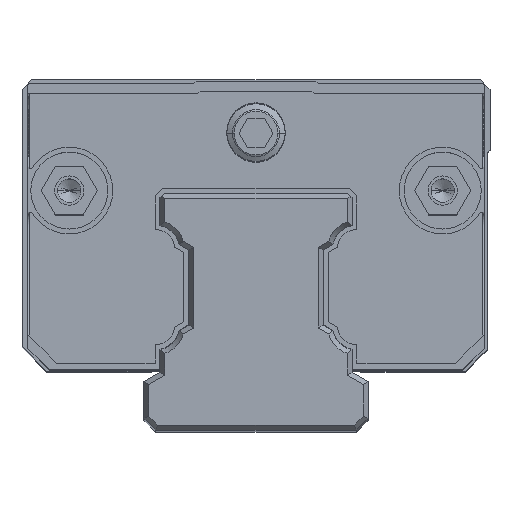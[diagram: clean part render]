
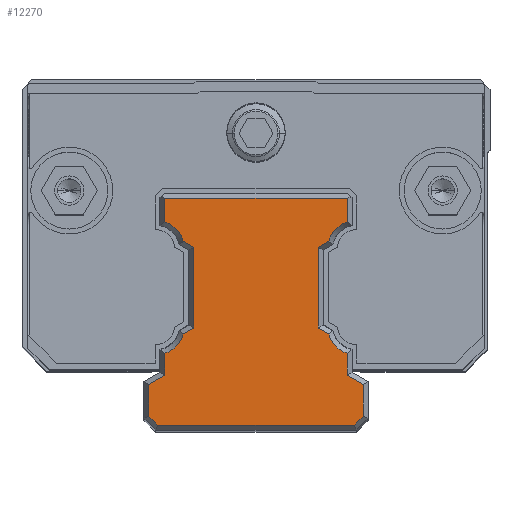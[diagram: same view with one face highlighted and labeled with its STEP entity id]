
A CAD part, top view. The second image highlights one B-rep face of the part: STEP entity #12270.
In plain terms, the highlighted planar face has unit normal (0, 0, 1).
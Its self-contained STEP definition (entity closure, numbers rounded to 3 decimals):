
#11584=DIRECTION('',(-1.,0.,0.));
#11585=VECTOR('',#11584,18.7);
#11586=CARTESIAN_POINT('',(9.35,9.15,68.1));
#11587=LINE('',#11586,#11585);
#11588=DIRECTION('',(0.,1.,0.));
#11589=VECTOR('',#11588,2.407);
#11590=CARTESIAN_POINT('',(9.35,6.743,68.1));
#11591=LINE('',#11590,#11589);
#11592=DIRECTION('',(0.866,0.5,0.));
#11593=VECTOR('',#11592,1.225);
#11594=CARTESIAN_POINT('',(6.4,4.139,68.1));
#11595=LINE('',#11594,#11593);
#11596=DIRECTION('',(0.,1.,0.));
#11597=VECTOR('',#11596,8.277);
#11598=CARTESIAN_POINT('',(6.4,-4.139,68.1));
#11599=LINE('',#11598,#11597);
#11600=DIRECTION('',(-0.866,0.5,0.));
#11601=VECTOR('',#11600,1.225);
#11602=CARTESIAN_POINT('',(7.461,-4.751,
68.1));
#11603=LINE('',#11602,#11601);
#11604=DIRECTION('',(0.,1.,0.));
#11605=VECTOR('',#11604,2.246);
#11606=CARTESIAN_POINT('',(9.35,-8.989,68.1));
#11607=LINE('',#11606,#11605);
#11608=DIRECTION('',(-0.866,0.5,0.));
#11609=VECTOR('',#11608,1.905);
#11610=CARTESIAN_POINT('',(11.,-9.941,68.1));
#11611=LINE('',#11610,#11609);
#11612=DIRECTION('',(0.,1.,0.));
#11613=VECTOR('',#11612,3.252);
#11614=CARTESIAN_POINT('',(11.,-13.193,68.1));
#11615=LINE('',#11614,#11613);
#11616=DIRECTION('',(0.707,0.707,0.));
#11617=VECTOR('',#11616,1.283);
#11618=CARTESIAN_POINT('',(10.093,-14.1,68.1));
#11619=LINE('',#11618,#11617);
#11620=DIRECTION('',(1.,0.,0.));
#11621=VECTOR('',#11620,20.186);
#11622=CARTESIAN_POINT('',(-10.093,-14.1,68.1));
#11623=LINE('',#11622,#11621);
#11624=DIRECTION('',(0.707,-0.707,0.));
#11625=VECTOR('',#11624,1.283);
#11626=CARTESIAN_POINT('',(-11.,-13.193,68.1));
#11627=LINE('',#11626,#11625);
#11628=DIRECTION('',(0.,-1.,0.));
#11629=VECTOR('',#11628,3.252);
#11630=CARTESIAN_POINT('',(-11.,-9.941,68.1));
#11631=LINE('',#11630,#11629);
#11632=DIRECTION('',(-0.866,-0.5,0.));
#11633=VECTOR('',#11632,1.905);
#11634=CARTESIAN_POINT('',(-9.35,-8.989,68.1));
#11635=LINE('',#11634,#11633);
#11636=DIRECTION('',(0.,-1.,0.));
#11637=VECTOR('',#11636,2.246);
#11638=CARTESIAN_POINT('',(-9.35,-6.743,
68.1));
#11639=LINE('',#11638,#11637);
#11640=DIRECTION('',(-0.866,-0.5,0.));
#11641=VECTOR('',#11640,1.225);
#11642=CARTESIAN_POINT('',(-6.4,-4.139,68.1));
#11643=LINE('',#11642,#11641);
#11644=DIRECTION('',(0.,-1.,0.));
#11645=VECTOR('',#11644,8.277);
#11646=CARTESIAN_POINT('',(-6.4,4.139,68.1));
#11647=LINE('',#11646,#11645);
#11648=DIRECTION('',(0.866,-0.5,0.));
#11649=VECTOR('',#11648,1.225);
#11650=CARTESIAN_POINT('',(-7.461,4.751,
68.1));
#11651=LINE('',#11650,#11649);
#11652=DIRECTION('',(0.,-1.,0.));
#11653=VECTOR('',#11652,2.407);
#11654=CARTESIAN_POINT('',(-9.35,9.15,68.1));
#11655=LINE('',#11654,#11653);
#11683=CARTESIAN_POINT('',(-10.3,3.95,68.1));
#11684=DIRECTION('',(0.,0.,-1.));
#11685=DIRECTION('',(0.322,0.947,0.));
#11686=AXIS2_PLACEMENT_3D('',#11683,#11684,#11685);
#11743=CARTESIAN_POINT('',(-10.3,-3.95,68.1));
#11744=DIRECTION('',(0.,0.,-1.));
#11745=DIRECTION('',(0.962,-0.272,0.));
#11746=AXIS2_PLACEMENT_3D('',#11743,#11744,#11745);
#11875=CARTESIAN_POINT('',(10.3,-3.95,68.1));
#11876=DIRECTION('',(0.,0.,-1.));
#11877=DIRECTION('',(-0.322,-0.947,0.));
#11878=AXIS2_PLACEMENT_3D('',#11875,#11876,#11877);
#11940=CARTESIAN_POINT('',(10.3,3.95,68.1));
#11941=DIRECTION('',(0.,0.,-1.));
#11942=DIRECTION('',(-0.962,0.272,0.));
#11943=AXIS2_PLACEMENT_3D('',#11940,#11941,#11942);
#12032=CARTESIAN_POINT('',(9.35,9.15,68.1));
#12033=CARTESIAN_POINT('',(-9.35,9.15,68.1));
#12034=VERTEX_POINT('',#12032);
#12035=VERTEX_POINT('',#12033);
#12040=CARTESIAN_POINT('',(9.35,6.743,68.1));
#12041=VERTEX_POINT('',#12040);
#12046=CARTESIAN_POINT('',(6.4,4.139,68.1));
#12047=CARTESIAN_POINT('',(7.461,4.751,68.1));
#12048=VERTEX_POINT('',#12046);
#12049=VERTEX_POINT('',#12047);
#12052=CARTESIAN_POINT('',(6.4,-4.139,68.1));
#12053=VERTEX_POINT('',#12052);
#12054=CARTESIAN_POINT('',(7.461,-4.751,
68.1));
#12055=VERTEX_POINT('',#12054);
#12062=CARTESIAN_POINT('',(9.35,-8.989,68.1));
#12063=CARTESIAN_POINT('',(9.35,-6.743,
68.1));
#12064=VERTEX_POINT('',#12062);
#12065=VERTEX_POINT('',#12063);
#12068=CARTESIAN_POINT('',(11.,-9.941,68.1));
#12069=VERTEX_POINT('',#12068);
#12072=CARTESIAN_POINT('',(11.,-13.193,68.1));
#12073=VERTEX_POINT('',#12072);
#12076=CARTESIAN_POINT('',(10.093,-14.1,68.1));
#12077=VERTEX_POINT('',#12076);
#12080=CARTESIAN_POINT('',(-10.093,-14.1,68.1));
#12081=VERTEX_POINT('',#12080);
#12084=CARTESIAN_POINT('',(-11.,-13.193,68.1));
#12085=VERTEX_POINT('',#12084);
#12088=CARTESIAN_POINT('',(-11.,-9.941,68.1));
#12089=VERTEX_POINT('',#12088);
#12092=CARTESIAN_POINT('',(-9.35,-8.989,68.1));
#12093=VERTEX_POINT('',#12092);
#12096=CARTESIAN_POINT('',(-9.35,-6.743,
68.1));
#12097=VERTEX_POINT('',#12096);
#12102=CARTESIAN_POINT('',(-6.4,-4.139,68.1));
#12103=CARTESIAN_POINT('',(-7.461,-4.751,
68.1));
#12104=VERTEX_POINT('',#12102);
#12105=VERTEX_POINT('',#12103);
#12108=CARTESIAN_POINT('',(-6.4,4.139,68.1));
#12109=VERTEX_POINT('',#12108);
#12112=CARTESIAN_POINT('',(-7.461,4.751,
68.1));
#12113=VERTEX_POINT('',#12112);
#12116=CARTESIAN_POINT('',(-9.35,6.743,
68.1));
#12117=VERTEX_POINT('',#12116);
#12221=CARTESIAN_POINT('',(0.,0.,68.1));
#12222=DIRECTION('',(0.,0.,1.));
#12223=DIRECTION('',(1.,0.,0.));
#12224=AXIS2_PLACEMENT_3D('',#12221,#12222,#12223);
#12225=PLANE('',#12224);
#12227=ORIENTED_EDGE('',*,*,#12226,.F.);
#12229=ORIENTED_EDGE('',*,*,#12228,.F.);
#12231=ORIENTED_EDGE('',*,*,#12230,.F.);
#12233=ORIENTED_EDGE('',*,*,#12232,.F.);
#12234=ORIENTED_EDGE('',*,*,#12199,.F.);
#12235=ORIENTED_EDGE('',*,*,#12211,.F.);
#12237=ORIENTED_EDGE('',*,*,#12236,.F.);
#12239=ORIENTED_EDGE('',*,*,#12238,.F.);
#12241=ORIENTED_EDGE('',*,*,#12240,.F.);
#12243=ORIENTED_EDGE('',*,*,#12242,.F.);
#12245=ORIENTED_EDGE('',*,*,#12244,.F.);
#12247=ORIENTED_EDGE('',*,*,#12246,.F.);
#12249=ORIENTED_EDGE('',*,*,#12248,.F.);
#12251=ORIENTED_EDGE('',*,*,#12250,.F.);
#12253=ORIENTED_EDGE('',*,*,#12252,.F.);
#12255=ORIENTED_EDGE('',*,*,#12254,.F.);
#12257=ORIENTED_EDGE('',*,*,#12256,.F.);
#12259=ORIENTED_EDGE('',*,*,#12258,.F.);
#12261=ORIENTED_EDGE('',*,*,#12260,.F.);
#12263=ORIENTED_EDGE('',*,*,#12262,.F.);
#12265=ORIENTED_EDGE('',*,*,#12264,.F.);
#12267=ORIENTED_EDGE('',*,*,#12266,.F.);
#12268=EDGE_LOOP('',(#12227,#12229,#12231,#12233,#12234,#12235,#12237,#12239,
#12241,#12243,#12245,#12247,#12249,#12251,#12253,#12255,#12257,#12259,#12261,
#12263,#12265,#12267));
#12269=FACE_OUTER_BOUND('',#12268,.F.);
#11687=CIRCLE('',#11686,2.95);
#11747=CIRCLE('',#11746,2.95);
#11879=CIRCLE('',#11878,2.95);
#11944=CIRCLE('',#11943,2.95);
#12199=EDGE_CURVE('',#12053,#12048,#11599,.T.);
#12211=EDGE_CURVE('',#12055,#12053,#11603,.T.);
#12226=EDGE_CURVE('',#12034,#12035,#11587,.T.);
#12228=EDGE_CURVE('',#12041,#12034,#11591,.T.);
#12230=EDGE_CURVE('',#12049,#12041,#11944,.T.);
#12232=EDGE_CURVE('',#12048,#12049,#11595,.T.);
#12236=EDGE_CURVE('',#12065,#12055,#11879,.T.);
#12238=EDGE_CURVE('',#12064,#12065,#11607,.T.);
#12240=EDGE_CURVE('',#12069,#12064,#11611,.T.);
#12242=EDGE_CURVE('',#12073,#12069,#11615,.T.);
#12244=EDGE_CURVE('',#12077,#12073,#11619,.T.);
#12246=EDGE_CURVE('',#12081,#12077,#11623,.T.);
#12248=EDGE_CURVE('',#12085,#12081,#11627,.T.);
#12250=EDGE_CURVE('',#12089,#12085,#11631,.T.);
#12252=EDGE_CURVE('',#12093,#12089,#11635,.T.);
#12254=EDGE_CURVE('',#12097,#12093,#11639,.T.);
#12256=EDGE_CURVE('',#12105,#12097,#11747,.T.);
#12258=EDGE_CURVE('',#12104,#12105,#11643,.T.);
#12260=EDGE_CURVE('',#12109,#12104,#11647,.T.);
#12262=EDGE_CURVE('',#12113,#12109,#11651,.T.);
#12264=EDGE_CURVE('',#12117,#12113,#11687,.T.);
#12266=EDGE_CURVE('',#12035,#12117,#11655,.T.);
#12270=ADVANCED_FACE('',(#12269),#12225,.T.);
